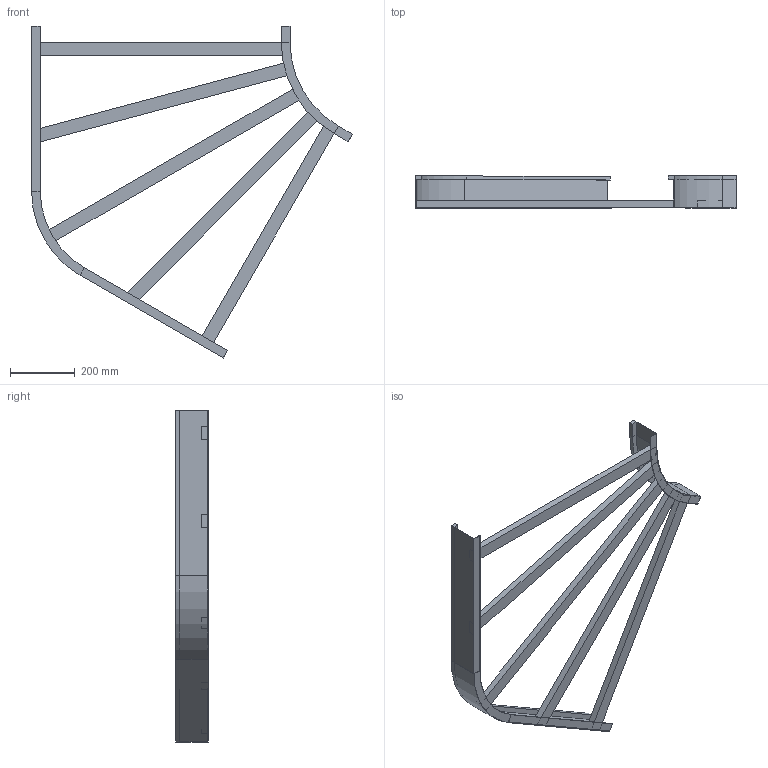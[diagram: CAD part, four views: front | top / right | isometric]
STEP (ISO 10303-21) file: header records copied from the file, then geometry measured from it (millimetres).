
FILE_DESCRIPTION (( 'STEP AP214' ), '1' );
FILE_NAME ('B2_13B3D800.step', '2025-02-21T15:18:35', ( '' ), ( '' ), 'SwSTEP 2.0', 'SolidWorks 2023', '' );
FILE_SCHEMA (( 'AUTOMOTIVE_DESIGN' ));
Length unit declared in the file: millimetre
Products named in the file (6): TRAVERSINO_800; TRAVERSINO_L918; B2_13B3D800; B2_LONGH.ESTERNO 60°_H100_R300+800; B2_LONGH.INTERNO 60°_H100_R300; TRAVERSINO_900_SCANTONATO
Assembly tree (7 placements, depth 2):
  B2_13B3D800
    B2_LONGH.INTERNO 60°_H100_R300
    B2_LONGH.ESTERNO 60°_H100_R300+800
    TRAVERSINO_800  x2
    TRAVERSINO_900_SCANTONATO  x2
    TRAVERSINO_L918
Bounding box: 993.3 x 100 x 1027.63 mm (x, y, z)
Volume: 4161028.9 mm3; surface area: 1016922.3 mm2
Topology: 7 solids, 7 shells, 82 faces, 172 edges, 104 vertices
Faces by surface type: plane 74, cylinder 8
Entity records: 2015 total; most frequent: DIRECTION 324, CARTESIAN_POINT 316, ORIENTED_EDGE 296, EDGE_CURVE 148, LINE 132, VECTOR 132, AXIS2_PLACEMENT_3D 96, VERTEX_POINT 88
